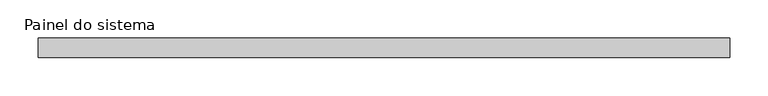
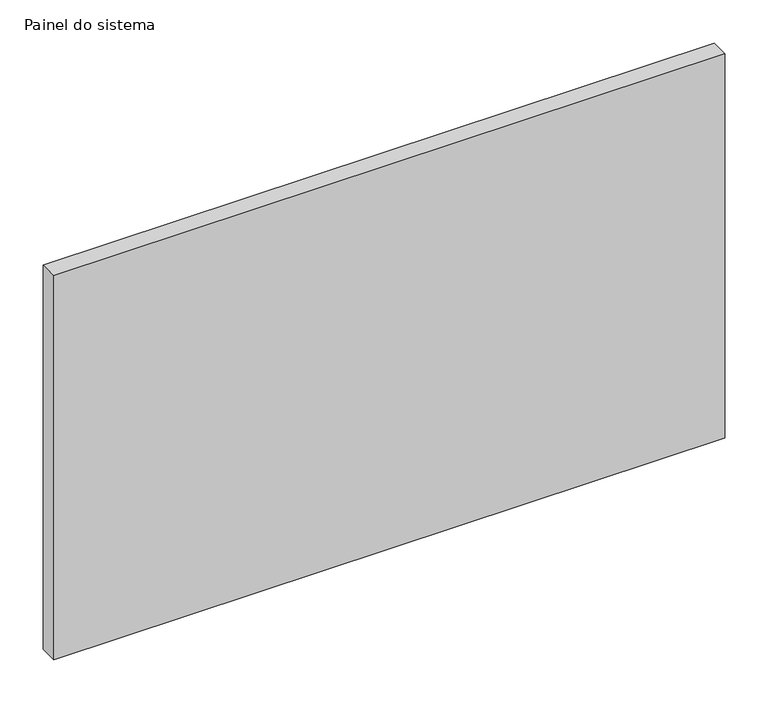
"""IFC4 building model written with IfcOpenShell, lengths in millimetres: plate geometry, Painel do sistema : Envidraçado."""

import ifcopenshell
import ifcopenshell.guid

model = None  # the IFC model being written
_history = None  # IfcOwnerHistory: only IFC2X3 demands one
_inside = {}  # id of a spatial element -> (the spatial element, [elements in it])
_under = {}  # id of a project, library or spatial element -> (it, [spatial elements below it])
_declared = {}  # id of a project -> (the project, [libraries it declares])
_typed = {}  # id of a type object -> (the type object, [elements of that type])
_made_of = {}  # id of a material, layer set ... -> (it, [elements and type objects made of it])


def new_model(schema):
    """Start an empty IFC model of exactly this schema.

    Asked for "IFC4X3", IfcOpenShell would pick the latest addendum, in which some entities
    have other attributes; the version numbers below select the first issue.
    IFC2X3 requires an IfcOwnerHistory on every rooted entity: one is made here for all.
    """
    global model, _history
    if schema == "IFC4X3":
        model = ifcopenshell.file(schema_version=(4, 3, 0, 0))
    else:
        model = ifcopenshell.file(schema=schema)
    _inside.clear()
    _under.clear()
    _declared.clear()
    _typed.clear()
    _made_of.clear()
    _history = None
    if model.schema == "IFC2X3":
        org = make("IfcOrganization", Name="unknown")
        user = make(
            "IfcPersonAndOrganization",
            ThePerson=make("IfcPerson", FamilyName="unknown"),
            TheOrganization=org,
        )
        app = make(
            "IfcApplication",
            ApplicationDeveloper=org,
            Version="unknown",
            ApplicationFullName="unknown",
            ApplicationIdentifier="unknown",
        )
        _history = make(
            "IfcOwnerHistory",
            OwningUser=user,
            OwningApplication=app,
            ChangeAction="ADDED",
            CreationDate=0,
        )
    return model


def make(cls, **values):
    """One entity of the class cls with the attributes given. An attribute that is None is left unset."""
    return model.create_entity(
        cls, **{name: value for name, value in values.items() if value is not None}
    )


def rooted(cls, **values):
    """An entity with a GlobalId (a new one), such as an element, a storey or a relation."""
    return make(cls, GlobalId=ifcopenshell.guid.new(), OwnerHistory=_history, **values)


def si_unit(unit_type, name, prefix=None):
    """IfcSIUnit, for example si_unit("LENGTHUNIT", "METRE", prefix="MILLI")."""
    return make("IfcSIUnit", UnitType=unit_type, Prefix=prefix, Name=name)


def assignment(units):
    """IfcUnitAssignment: the units of a project."""
    return None if units is None else make("IfcUnitAssignment", Units=units)


def point(xyz):
    """IfcCartesianPoint."""
    return None if xyz is None else make("IfcCartesianPoint", Coordinates=xyz)


def direction(xyz):
    """IfcDirection."""
    return None if xyz is None else make("IfcDirection", DirectionRatios=xyz)


def frame(location, z_axis=None, x_axis=None):
    """IfcAxis2Placement3D, a coordinate frame: its origin and axes. An axis left out is left unset."""
    return make(
        "IfcAxis2Placement3D",
        Location=point(location),
        Axis=direction(z_axis),
        RefDirection=direction(x_axis),
    )


def origin():
    """The frame at (0, 0, 0) with its axes left unset."""
    return frame((0.0, 0.0, 0.0))


def origin_with_axes():
    """The frame at (0, 0, 0) with the z axis (0, 0, 1) and the x axis (1, 0, 0) written out."""
    return frame((0.0, 0.0, 0.0), z_axis=(0.0, 0.0, 1.0), x_axis=(1.0, 0.0, 0.0))


def place(relative_to, where):
    """IfcLocalPlacement: puts the frame where relative to a parent placement (None: the world)."""
    return make(
        "IfcLocalPlacement", PlacementRelTo=relative_to, RelativePlacement=where
    )


def context(
    kind, dimensions, precision=None, world=None, true_north=None, identifier=None
):
    """IfcGeometricRepresentationContext, for example the 3D "Model" context."""
    return make(
        "IfcGeometricRepresentationContext",
        ContextIdentifier=identifier,
        ContextType=kind,
        CoordinateSpaceDimension=dimensions,
        Precision=precision,
        WorldCoordinateSystem=world,
        TrueNorth=true_north,
    )


def project(units=None, contexts=None):
    """IfcProject with its units and contexts."""
    return rooted(
        "IfcProject",
        Name="project",
        RepresentationContexts=contexts,
        UnitsInContext=assignment(units),
    )


def spatial(cls, under=None, at=None, **own):
    """A site, building, storey or space (cls), placed at a placement, below another one or the project."""
    s = rooted(cls, ObjectPlacement=at, **own)
    if under is not None:
        _under.setdefault(under.id(), (under, []))[1].append(s)
    return s


def polyline(points):
    """IfcPolyline through the points."""
    return make("IfcPolyline", Points=[point(p) for p in points])


def outline(outer, holes=None, kind="AREA"):
    """IfcArbitraryClosedProfileDef: a profile drawn as a closed curve; with holes, ...WithVoids."""
    if holes is None:
        return make("IfcArbitraryClosedProfileDef", ProfileType=kind, OuterCurve=outer)
    return make(
        "IfcArbitraryProfileDefWithVoids",
        ProfileType=kind,
        OuterCurve=outer,
        InnerCurves=holes,
    )


def extrude(swept, where, along, depth):
    """IfcExtrudedAreaSolid: the profile swept, set in the frame where, extruded along a direction by depth."""
    return make(
        "IfcExtrudedAreaSolid",
        SweptArea=swept,
        Position=where,
        ExtrudedDirection=direction(along),
        Depth=depth,
    )


def shape(context_of_items, identifier, shape_type, items):
    """IfcShapeRepresentation: the items that make up one representation, for example the "Body"."""
    return make(
        "IfcShapeRepresentation",
        ContextOfItems=context_of_items,
        RepresentationIdentifier=identifier,
        RepresentationType=shape_type,
        Items=items,
    )


def source(mapping_origin, context_of_items, identifier, shape_type, items):
    """IfcRepresentationMap: a shape defined once, which mapped items show again and again."""
    return make(
        "IfcRepresentationMap",
        MappingOrigin=mapping_origin,
        MappedRepresentation=shape(context_of_items, identifier, shape_type, items),
    )


def transform(
    local_origin,
    x_axis=None,
    y_axis=None,
    z_axis=None,
    scale=None,
    scale2=None,
    scale3=None,
    uniform=True,
):
    """IfcCartesianTransformationOperator3D, or its non-uniform kind. x_axis, y_axis, z_axis: its Axis1, 2, 3."""
    if uniform:
        return make(
            "IfcCartesianTransformationOperator3D",
            Axis1=direction(x_axis),
            Axis2=direction(y_axis),
            LocalOrigin=point(local_origin),
            Scale=scale,
            Axis3=direction(z_axis),
        )
    return make(
        "IfcCartesianTransformationOperator3DnonUniform",
        Axis1=direction(x_axis),
        Axis2=direction(y_axis),
        LocalOrigin=point(local_origin),
        Scale=scale,
        Axis3=direction(z_axis),
        Scale2=scale2,
        Scale3=scale3,
    )


def mapped(mapping_source, mapping_target):
    """IfcMappedItem: shows the shape of a source again, moved by a transform."""
    return make(
        "IfcMappedItem", MappingSource=mapping_source, MappingTarget=mapping_target
    )


def made_of(thing, what):
    """Note that an element or type object is made of a material, layer set ...; save() writes the relation."""
    if what is not None:
        _made_of.setdefault(what.id(), (what, []))[1].append(thing)
    return thing


def element(
    cls,
    number,
    at=None,
    inside=None,
    cuts=None,
    type_object=None,
    material=None,
    context=None,
    identifier="Body",
    shape_type=None,
    held_by="IfcProductDefinitionShape",
    body=None,
    shapes=None,
    **own,
):
    """One element of the class cls, such as IfcWall. Its Tag is "e" and its number.

    at: its placement. inside: the storey or other place that contains it. cuts: it is an
    opening in that element (IfcRelVoidsElement). A single representation is given by context,
    identifier, shape_type and body (its items); several are given by shapes. held_by: the class
    of the entity that holds the representations. save() writes the other relations.
    """
    e = rooted(cls, Tag="e%d" % number, ObjectPlacement=at, **own)
    if body is not None:
        shapes = [shape(context, identifier, shape_type, body)]
    if shapes is not None:
        e.Representation = make(held_by, Representations=shapes)
    if inside is not None:
        _inside.setdefault(inside.id(), (inside, []))[1].append(e)
    if cuts is not None:
        rooted(
            "IfcRelVoidsElement", RelatingBuildingElement=cuts, RelatedOpeningElement=e
        )
    if type_object is not None:
        _typed.setdefault(type_object.id(), (type_object, []))[1].append(e)
    return made_of(e, material)


def aggregate(whole, parts):
    """IfcRelAggregates: a whole, such as a stair, and the parts it consists of."""
    return rooted("IfcRelAggregates", RelatingObject=whole, RelatedObjects=parts)


def save(model, path):
    """Write the relations noted so far, then the file.

    IfcRelAggregates (storeys below a building ...), IfcRelContainedInSpatialStructure (elements
    in a storey), IfcRelDefinesByType, IfcRelAssociatesMaterial and IfcRelDeclares: one each for
    every whole, place, type object, material and project.
    """
    for whole, parts in _under.values():
        aggregate(whole, parts)
    for where, things in _inside.values():
        rooted(
            "IfcRelContainedInSpatialStructure",
            RelatedElements=things,
            RelatingStructure=where,
        )
    for kind, things in _typed.values():
        rooted("IfcRelDefinesByType", RelatedObjects=things, RelatingType=kind)
    for what, things in _made_of.values():
        rooted("IfcRelAssociatesMaterial", RelatedObjects=things, RelatingMaterial=what)
    for by, libraries in _declared.values():
        rooted("IfcRelDeclares", RelatingContext=by, RelatedDefinitions=libraries)
    model.write(path)


def painel_do_sistema_d74b781c(model_context):
    return source(origin(), model_context, "Body", "SweptSolid", [
        extrude(outline(polyline([(450.0, 24.5), (-450.0, 24.5), (-450.0, 49.5), (450.0, 49.5), (450.0, 24.5)])), origin_with_axes(), (0.0, 0.0, 1.0), 545.0),
    ])


if __name__ == "__main__":
    model = new_model("IFC4")
    model_context = context("Model", 3, world=origin())
    ifc_project = project(units=[si_unit("LENGTHUNIT", "METRE", prefix="MILLI")], contexts=[model_context])
    site = spatial("IfcSite", under=ifc_project)
    building = spatial("IfcBuilding", under=site)
    placement = place(None, origin())
    painel_do_sistema_shape = painel_do_sistema_d74b781c(model_context)
    element("IfcPlate", 1, ObjectType="Painel do sistema : Envidraçado", at=placement, inside=building, context=model_context, shape_type="MappedRepresentation", body=[
        mapped(painel_do_sistema_shape, transform((0.0, 0.0, 0.0), x_axis=(1.0, 0.0, 0.0), y_axis=(0.0, 1.0, 0.0), z_axis=(0.0, 0.0, 1.0))),
    ])
    save(model, "model.ifc")
